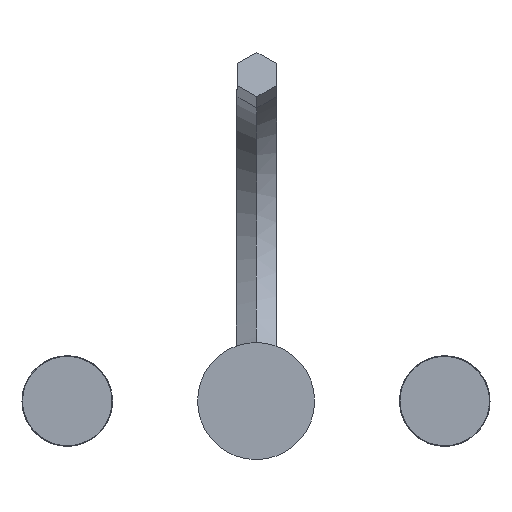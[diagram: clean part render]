
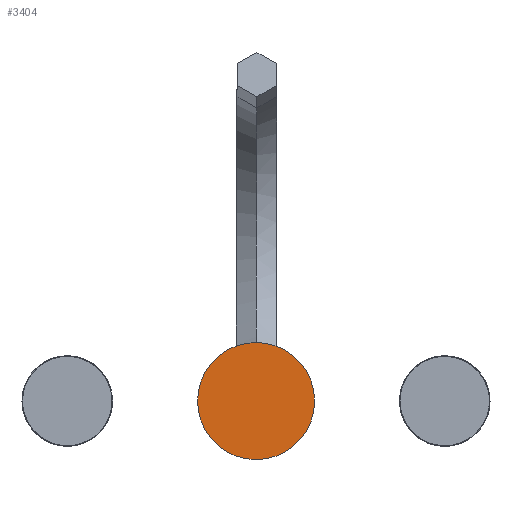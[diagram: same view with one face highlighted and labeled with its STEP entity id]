
A CAD part, front view. The second image highlights one B-rep face of the part: STEP entity #3404.
In plain terms, the highlighted planar face has unit normal (0, -1, 0).
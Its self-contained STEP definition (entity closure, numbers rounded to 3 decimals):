
#2718=CARTESIAN_POINT('',(0.,0.,0.));
#2719=DIRECTION('',(0.,-1.,0.));
#2720=DIRECTION('',(1.,0.,0.));
#2721=AXIS2_PLACEMENT_3D('',#2718,#2719,#2720);
#2726=CARTESIAN_POINT('',(0.,0.,0.));
#2727=DIRECTION('',(0.,-1.,0.));
#2728=DIRECTION('',(0.,0.,-1.));
#2729=AXIS2_PLACEMENT_3D('',#2726,#2727,#2728);
#2734=CARTESIAN_POINT('',(0.,0.,0.));
#2735=DIRECTION('',(0.,-1.,0.));
#2736=DIRECTION('',(-1.,0.,0.));
#2737=AXIS2_PLACEMENT_3D('',#2734,#2735,#2736);
#2742=CARTESIAN_POINT('',(0.,0.,0.));
#2743=DIRECTION('',(0.,-1.,0.));
#2744=DIRECTION('',(0.,0.,1.));
#2745=AXIS2_PLACEMENT_3D('',#2742,#2743,#2744);
#3145=CARTESIAN_POINT('',(0.,0.,31.));
#3146=CARTESIAN_POINT('',(-31.,0.,0.));
#3147=VERTEX_POINT('',#3145);
#3148=VERTEX_POINT('',#3146);
#3149=CARTESIAN_POINT('',(31.,0.,0.));
#3150=VERTEX_POINT('',#3149);
#3151=CARTESIAN_POINT('',(0.,0.,-31.));
#3152=VERTEX_POINT('',#3151);
#3391=CARTESIAN_POINT('',(-37.202,0.,37.202));
#3392=DIRECTION('',(0.,1.,0.));
#3393=DIRECTION('',(1.,0.,0.));
#3394=AXIS2_PLACEMENT_3D('',#3391,#3392,#3393);
#3395=PLANE('',#3394);
#3396=ORIENTED_EDGE('',*,*,#3374,.F.);
#3398=ORIENTED_EDGE('',*,*,#3397,.F.);
#3400=ORIENTED_EDGE('',*,*,#3399,.F.);
#3401=ORIENTED_EDGE('',*,*,#3366,.F.);
#3402=EDGE_LOOP('',(#3396,#3398,#3400,#3401));
#3403=FACE_OUTER_BOUND('',#3402,.F.);
#2722=CIRCLE('',#2721,31.);
#2730=CIRCLE('',#2729,31.);
#2738=CIRCLE('',#2737,31.);
#2746=CIRCLE('',#2745,31.);
#3366=EDGE_CURVE('',#3147,#3148,#2746,.T.);
#3374=EDGE_CURVE('',#3150,#3147,#2722,.T.);
#3397=EDGE_CURVE('',#3152,#3150,#2730,.T.);
#3399=EDGE_CURVE('',#3148,#3152,#2738,.T.);
#3404=ADVANCED_FACE('',(#3403),#3395,.F.);
